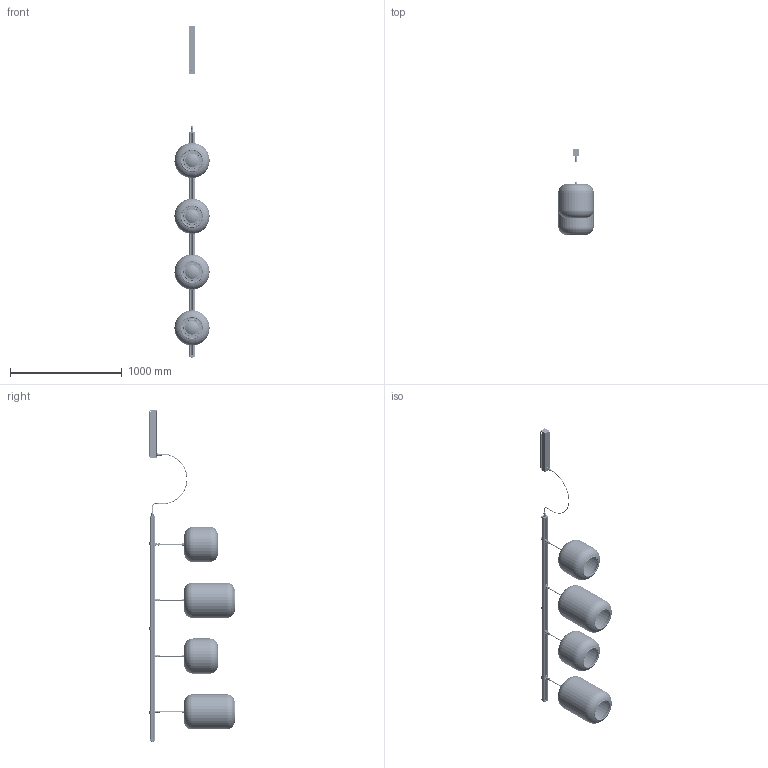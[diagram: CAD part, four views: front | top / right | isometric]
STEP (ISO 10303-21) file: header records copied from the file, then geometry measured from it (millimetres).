
FILE_DESCRIPTION (( 'STEP AP203' ), '1' );
FILE_NAME ('OUTRACK NANS PF-31-31.2-4L 13010104xxx.STEP', '2024-02-08T13:55:38', ( '' ), ( '' ), 'SwSTEP 2.0', 'SolidWorks 2019', '' );
FILE_SCHEMA (( 'CONFIG_CONTROL_DESIGN' ));
Length unit declared in the file: millimetre
Products named in the file (58): 000-130 OUTRACK ENSAMBLAJE CONECTOR INFERIOR 20_09_22; 000-914-248; 000-AC130304_AC130304-CURVADO; 000-133-035; 000-AC130500_TRIAC; 000-914-231HP; 000-D7991-310; 000-AC130201; 000-D965-38_ISO 7046-1 - M3 x 5 - Z --- 5N; 000-309-042; 000-30902229YYY NANS S-31 OUT SISTEMA 24VDC; 000-914-052; 000-309-001; 000-130_516; 000-309-045; 000-130_517; 000-133-050; 000-TUERCA M16_150 CONECTOR LLT; 000-309-017; 000-D913-33A2_M3X3mm; 000-906-024; 000-130_503; 000-D6798J-3.2A2; 000-130 OUTRACK TAPA ACOMETIDA 20_09_22_SIN PRENSA; 000-30903229YYY NANS S-31-2 OUT SISTEMA 24VDC; 000-AC130002; OUTRACK NANS PF-31-31.2-4L 13010104xxx; 000-133-037-12; 000-130_504; 000-309-047; 000-130_501; 000-130 OUTRACK TAPA ACOMETIDA 20_09_22; 000-309-044; 000-130_521; 000-309-002; 000-130_502; 000-914-231; 000-133-038-12; 000-D7985-34; 000-130-115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
Assembly tree (180 placements, depth 4):
  OUTRACK NANS PF-31-31.2-4L 13010104xxx
    000-AC130002
      000-130_521
      000-130 OUTRACK TAPA ACOMETIDA 20_09_22
        000-130_516
        000-914-231HP
        000-130_517
        000-D965-38_ISO 7046-1 - M3 x 5 - Z --- 5N  x4
      000-130 OUTRACK TAPA ACOMETIDA 20_09_22_SIN PRENSA
        000-130_516
        000-914-231HP
        000-130_517
        000-D965-38_ISO 7046-1 - M3 x 5 - Z --- 5N  x4
      000-130 OUTRACK ENSAMBLAJE CONECTOR INFERIOR 20_09_22
        000-130_504
        000-130_304
        000-914-231HP
        000-D7991-310  x4
      000-130 OUTRACK ENSAMBLAJE CONECTOR INFERIOR 20_09_22
        000-130_504
        000-130_304
        000-914-231HP
        000-D7991-310  x4
      000-130 OUTRACK ENSAMBLAJE CONECTOR INFERIOR 20_09_22
        000-130_504
        000-130_304
        000-914-231HP
        000-D7991-310  x4
      000-130 OUTRACK ENSAMBLAJE CONECTOR INFERIOR 20_09_22
        000-130_504
        000-130_304
        000-914-231HP
        000-D7991-310  x4
      000-130-115
      000-914-258
    000-AC130304_AC130304-CURVADO
      000-914-231
      000-906.032 - AC130304-CURVADO
    000-AC130201
      000-130_502
      000-130_501
      000-130_503
      000-D912-330_A2_DIN 912 M3 x 30 --- 18N  x2
    000-AC130201
      000-130_502
      000-130_501
      000-130_503
      000-D912-330_A2_DIN 912 M3 x 30 --- 18N  x2
    000-AC130201
      000-130_502
      000-130_501
      000-130_503
      000-D912-330_A2_DIN 912 M3 x 30 --- 18N  x2
    000-30902229YYY NANS S-31 OUT SISTEMA 24VDC
      000-309-047
      000-309-042
      000-D7991-38 A2  x6
      000-309-041
      000-309-029
      000-906-024
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Bounding box: 315 x 764.29 x 2975.6 mm (x, y, z)
Volume: 7681611.6 mm3; surface area: 6401513.4 mm2
Topology: 169 solids, 184 shells, 10869 faces, 27434 edges, 17440 vertices
Faces by surface type: plane 4117, cylinder 3213, cone 1595, bspline 1399, torus 511, sphere 34
Entity records: 135999 total; most frequent: CARTESIAN_POINT 41008, ORIENTED_EDGE 18376, DIRECTION 17148, EDGE_CURVE 9194, AXIS2_PLACEMENT_3D 6161, VERTEX_POINT 5937, LINE 4826, VECTOR 4826
